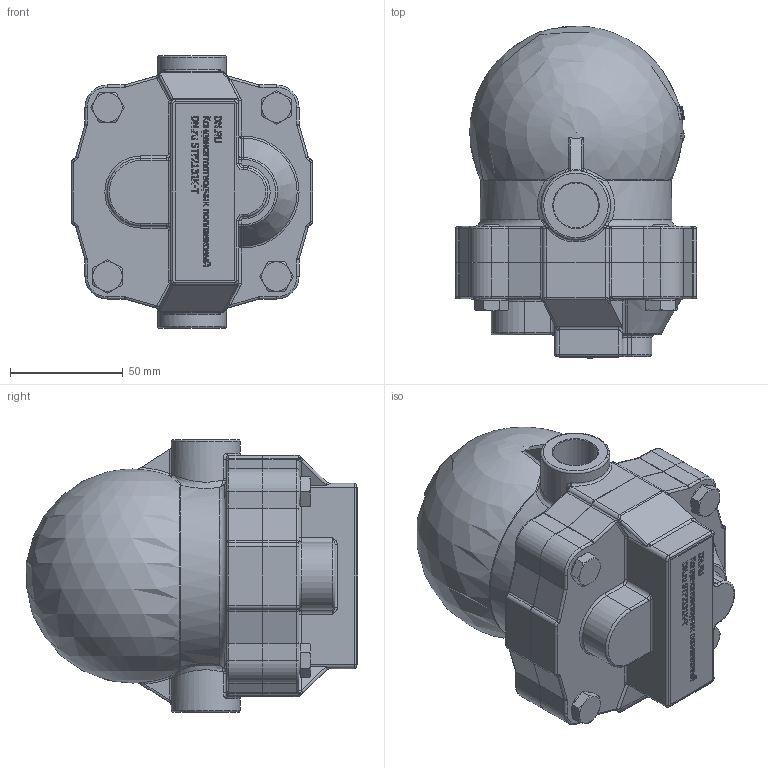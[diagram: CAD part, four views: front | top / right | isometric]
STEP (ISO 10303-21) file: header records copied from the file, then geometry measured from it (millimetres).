
FILE_DESCRIPTION(('STEP AP214'), '1');
FILE_NAME('STF2131K-T Êîíäåíñàòîîòâîä÷èê ïîïëàâêîâûé DN.ru Äó20 Ðó16', '', ('UNSPECIFIED'), ('UNSPECIFIED'), 'C3D Converter', 'C3D Toolkit', '');
FILE_SCHEMA(('AUTOMOTIVE_DESIGN { 1 0 10303 214 3 1 1}'));
Length unit declared in the file: millimetre
Products named in the file (1): STF2131K-T
Bounding box: 107 x 147.26 x 121 mm (x, y, z)
Volume: 895732.8 mm3; surface area: 88547.6 mm2
Topology: 5 solids, 5 shells, 1330 faces, 3404 edges, 2173 vertices
Faces by surface type: plane 645, bspline 388, cylinder 182, torus 65, cone 35, sphere 15
Full cylindrical faces by diameter (mm): 8 x8, 9 x8, 13 x4, 20 x2, 30.631 x2, 50.24 x1
Entity records: 92559 total; most frequent: CARTESIAN_POINT 53030, ORIENTED_EDGE 6710, DIRECTION 4947, EDGE_CURVE 3355, VERTEX_POINT 2169, LINE 1895, VECTOR 1895, AXIS2_PLACEMENT_3D 1526
